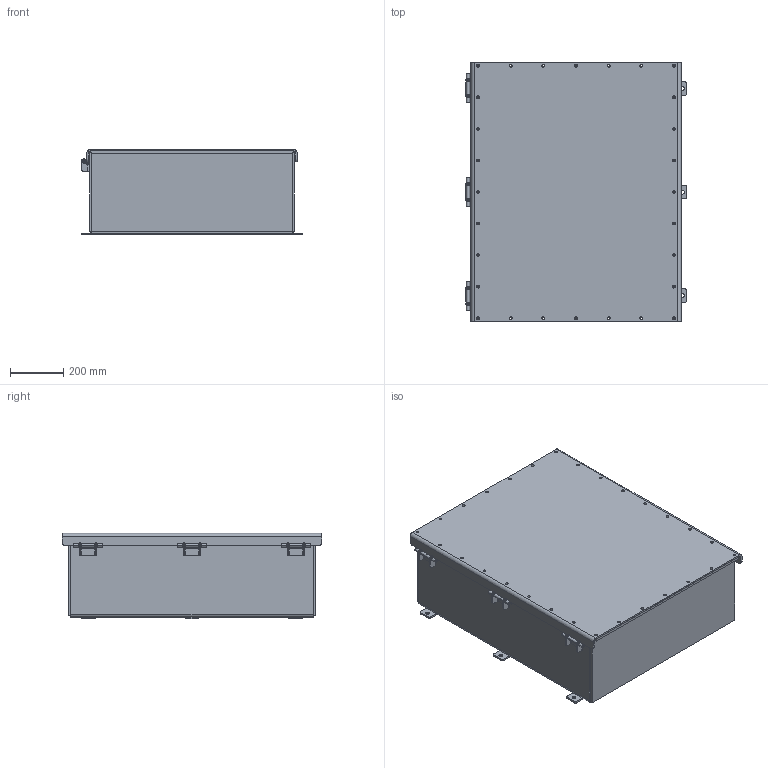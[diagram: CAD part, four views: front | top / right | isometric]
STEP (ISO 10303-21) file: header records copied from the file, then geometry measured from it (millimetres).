
FILE_DESCRIPTION (( 'STEP AP203' ), '1' );
FILE_NAME ('a36d3012.STEP', '2008-08-14T14:08:22', ( '' ), ( '' ), 'SwSTEP 2.0', 'SolidWorks 2007', '' );
FILE_SCHEMA (( 'CONFIG_CONTROL_DESIGN' ));
Length unit declared in the file: inch
Products named in the file (17): 99411210, STUD CD .25-20X.75; 22112001_stud collar .375-16x1.00; Panel_Nema_A36P30; A9_CoverWmtSLDASM_36x30; a36d3012; A9_BodyWmtLg_36x30x12; A9_Wrapper_36x30x12; A9_End_30x11.62; A9_Flange_29.88x1.25; A9_Block_32101002; 32A03_MtgFoot_32.88; A9_HingeBrkt; 87780941_Lug; A9_Cover_36x30; 24110001; 32105001_RetainerClip; A9_Hinge_32108001
Assembly tree (56 placements, depth 3):
  a36d3012
    A9_BodyWmtLg_36x30x12
      22112001_stud collar .375-16x1.00  x6
      32A03_MtgFoot_32.88  x3
      A9_Wrapper_36x30x12
      A9_Block_32101002  x14
      A9_End_30x11.62  x2
      A9_Flange_29.88x1.25  x2
      A9_HingeBrkt  x3
      87780941_Lug
      99411210, STUD CD .25-20X.75
    A9_CoverWmtSLDASM_36x30
      32105001_RetainerClip  x8
      24110001  x8
      A9_Hinge_32108001  x3
      A9_Cover_36x30
    Panel_Nema_A36P30
Bounding box: 835.15 x 977.9 x 322.15 mm (x, y, z)
Volume: 18906604.8 mm3; surface area: 7102718.4 mm2
Topology: 55 solids, 55 shells, 1219 faces, 2852 edges, 1768 vertices
Faces by surface type: plane 569, cylinder 520, cone 64, torus 54, sphere 6, bspline 6
Entity records: 17298 total; most frequent: DIRECTION 2669, CARTESIAN_POINT 2624, ORIENTED_EDGE 2278, EDGE_CURVE 1139, AXIS2_PLACEMENT_3D 1022, VERTEX_POINT 715, VECTOR 625, LINE 625
